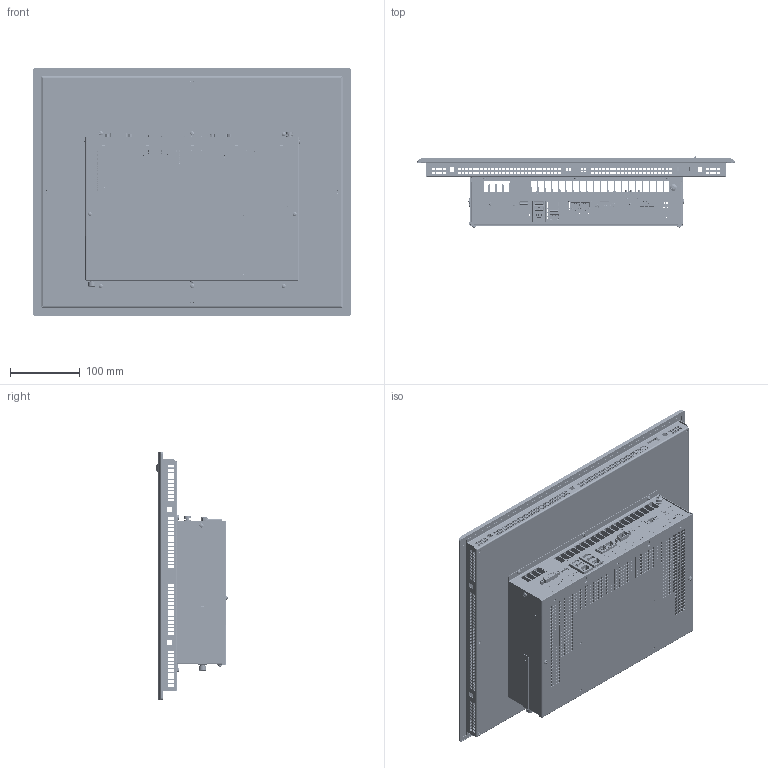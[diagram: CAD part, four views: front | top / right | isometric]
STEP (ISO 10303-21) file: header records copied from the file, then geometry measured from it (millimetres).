
FILE_DESCRIPTION (( 'STEP AP214' ), '1' );
FILE_NAME ('C6P34-Panel_170_Res_S0.STEP', '2019-09-19T15:20:40', ( '' ), ( '' ), 'SwSTEP 2.0', 'SolidWorks 2018', '' );
FILE_SCHEMA (( 'AUTOMOTIVE_DESIGN' ));
Length unit declared in the file: millimetre
Products named in the file (146): 58702102; 65720078; 23330039; 59702265; 51524089; 69111027; piazzuola_de800_di370; 21410056; 21409042; 62920012; 65720030; 14300025; 57936013; 58702102_Default<A macchina>; 62920002; 7359_056; D02201702; 56635572; 7397_227; 21404036; 21410046; 21614000; 57902481; 21410015; 66320001; 14300028; 52912002; 65720029; 62920009; 21509026; 21410052; C6P34-Panel_170_Res_S0; 59302346; 66320015; 52536147_Default<A macchina>; 57936014; 21502089; 52536147; 51702303_Default<A macchina>; 21408088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
Assembly tree (104 placements, depth 4):
  58702102
  59702265
  51524089
  69111027
  piazzuola_de800_di370
Bounding box: 455 x 101.83 x 355 mm (x, y, z)
Volume: 1540486.3 mm3; surface area: 1633201.6 mm2
Topology: 192 solids, 210 shells, 24508 faces, 68775 edges, 45034 vertices
Faces by surface type: plane 18691, cylinder 4395, bspline 767, cone 527, torus 108, sphere 20
Full cylindrical faces by diameter (mm): 0.3 x9, 0.434 x1, 0.6 x30, 0.65 x6, 0.7 x165, 0.8 x36, 0.85 x66, 0.9 x175, 0.95 x11, 1 x119, 1.1 x3, 1.2 x10, 1.32 x2, 1.35 x4, 1.4 x8, 1.5 x6, 1.6 x7, 1.7 x4, 1.8 x3, 1.9 x4, 1.95 x4, 2.05 x1, 2.3 x18, 2.4 x9, 2.5 x24, 2.6 x5, 2.8 x3, 2.874 x1, 3 x48, 3.15 x2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
Entity records: 727923 total; most frequent: CARTESIAN_POINT 156046, ORIENTED_EDGE 117774, DIRECTION 104609, EDGE_CURVE 59277, LINE 49405, VECTOR 49405, VERTEX_POINT 39455, EDGE_LOOP 27687
